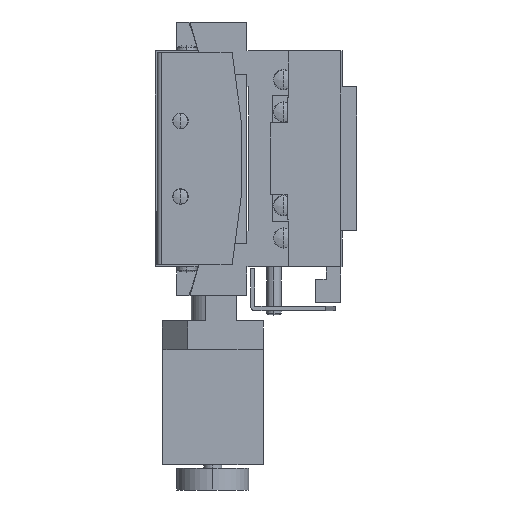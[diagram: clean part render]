
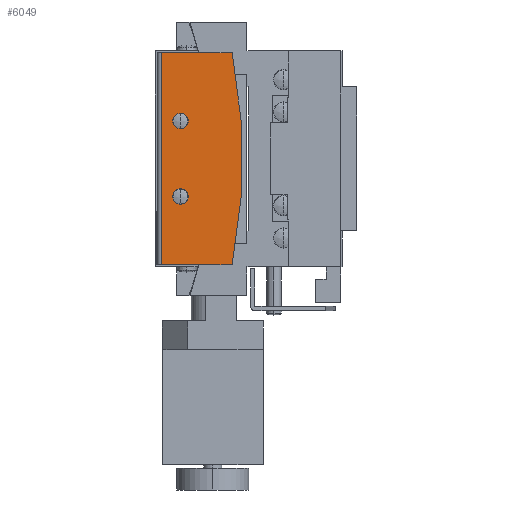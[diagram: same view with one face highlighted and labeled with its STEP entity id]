
A CAD part, left-side view. The second image highlights one B-rep face of the part: STEP entity #6049.
In plain terms, the highlighted planar face has unit normal (-1, 0, 0).
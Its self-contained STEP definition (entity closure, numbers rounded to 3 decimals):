
#139 = VECTOR ( 'NONE', #13687, 1000. ) ;
#878 = DIRECTION ( 'NONE',  ( 0., -1., 0. ) ) ;
#882 = CARTESIAN_POINT ( 'NONE',  ( -42.2, -10.5, 35. ) ) ;
#902 = CARTESIAN_POINT ( 'NONE',  ( -42.2, -29.5, 17.7 ) ) ;
#975 = DIRECTION ( 'NONE',  ( 0., -1., 0. ) ) ;
#1068 = CARTESIAN_POINT ( 'NONE',  ( -42.2, 12.65, 35. ) ) ;
#1344 = CIRCLE ( 'NONE', #1983, 2.15 ) ;
#1662 = CARTESIAN_POINT ( 'NONE',  ( -42.2, -10.5, 35. ) ) ;
#1810 = DIRECTION ( 'NONE',  ( 0., -1., 0. ) ) ;
#1983 = AXIS2_PLACEMENT_3D ( 'NONE', #882, #9942, #975 ) ;
#2051 = DIRECTION ( 'NONE',  ( 1., 0., 0. ) ) ;
#2101 = FACE_OUTER_BOUND ( 'NONE', #4319, .T. ) ;
#2125 = CIRCLE ( 'NONE', #4217, 150. ) ;
#2135 = ORIENTED_EDGE ( 'NONE', *, *, #11800, .T. ) ;
#2255 = VERTEX_POINT ( 'NONE', #5847 ) ;
#2368 = ORIENTED_EDGE ( 'NONE', *, *, #6574, .F. ) ;
#2982 = VERTEX_POINT ( 'NONE', #12586 ) ;
#3527 = CARTESIAN_POINT ( 'NONE',  ( -42.2, 10.5, 35. ) ) ;
#3868 = VERTEX_POINT ( 'NONE', #12708 ) ;
#4003 = CARTESIAN_POINT ( 'NONE',  ( -42.2, 10.5, 35. ) ) ;
#4048 = ORIENTED_EDGE ( 'NONE', *, *, #12404, .F. ) ;
#4217 = AXIS2_PLACEMENT_3D ( 'NONE', #5276, #13248, #6412 ) ;
#4234 = EDGE_CURVE ( 'NONE', #5598, #2982, #10688, .T. ) ;
#4319 = EDGE_LOOP ( 'NONE', ( #9491, #2135, #9579, #6931 ) ) ;
#5002 = EDGE_CURVE ( 'NONE', #12826, #3868, #2125, .T. ) ;
#5150 = DIRECTION ( 'NONE',  ( 0., -1., 0. ) ) ;
#5276 = CARTESIAN_POINT ( 'NONE',  ( -42.2, 0., 167.7 ) ) ;
#5598 = VERTEX_POINT ( 'NONE', #1068 ) ;
#5651 = FACE_BOUND ( 'NONE', #9182, .T. ) ;
#5783 = EDGE_CURVE ( 'NONE', #12539, #12826, #14261, .T. ) ;
#5809 = CARTESIAN_POINT ( 'NONE',  ( -42.2, -12.65, 35. ) ) ;
#5811 = EDGE_CURVE ( 'NONE', #13154, #3868, #11571, .T. ) ;
#5841 = LINE ( 'NONE', #8441, #12989 ) ;
#5847 = CARTESIAN_POINT ( 'NONE',  ( -42.2, -8.35, 35. ) ) ;
#5892 = CARTESIAN_POINT ( 'NONE',  ( -42.2, 29.5, 17.7 ) ) ;
#6049 = ADVANCED_FACE ( 'NONE', ( #9383, #5651, #2101 ), #10822, .F. ) ;
#6233 = EDGE_LOOP ( 'NONE', ( #8995, #2368 ) ) ;
#6412 = DIRECTION ( 'NONE',  ( 0., 1., 0. ) ) ;
#6574 = EDGE_CURVE ( 'NONE', #2255, #8636, #1344, .T. ) ;
#6931 = ORIENTED_EDGE ( 'NONE', *, *, #5002, .T. ) ;
#7203 = ORIENTED_EDGE ( 'NONE', *, *, #4234, .F. ) ;
#7348 = AXIS2_PLACEMENT_3D ( 'NONE', #4003, #8588, #1810 ) ;
#7876 = EDGE_CURVE ( 'NONE', #8636, #2255, #13247, .T. ) ;
#8054 = DIRECTION ( 'NONE',  ( 0., 0., -1. ) ) ;
#8162 = CARTESIAN_POINT ( 'NONE',  ( -42.2, -29.5, 17.7 ) ) ;
#8441 = CARTESIAN_POINT ( 'NONE',  ( -42.2, -29.5, 40.3 ) ) ;
#8588 = DIRECTION ( 'NONE',  ( -1., 0., 0. ) ) ;
#8636 = VERTEX_POINT ( 'NONE', #5809 ) ;
#8995 = ORIENTED_EDGE ( 'NONE', *, *, #7876, .F. ) ;
#9012 = CIRCLE ( 'NONE', #13285, 2.15 ) ;
#9114 = AXIS2_PLACEMENT_3D ( 'NONE', #902, #2051, #13170 ) ;
#9182 = EDGE_LOOP ( 'NONE', ( #4048, #7203 ) ) ;
#9353 = CARTESIAN_POINT ( 'NONE',  ( -42.2, -29.5, 40.3 ) ) ;
#9383 = FACE_BOUND ( 'NONE', #6233, .T. ) ;
#9491 = ORIENTED_EDGE ( 'NONE', *, *, #5811, .F. ) ;
#9579 = ORIENTED_EDGE ( 'NONE', *, *, #5783, .T. ) ;
#9942 = DIRECTION ( 'NONE',  ( -1., 0., 0. ) ) ;
#10688 = CIRCLE ( 'NONE', #7348, 2.15 ) ;
#10822 = PLANE ( 'NONE',  #9114 ) ;
#10891 = AXIS2_PLACEMENT_3D ( 'NONE', #1662, #11980, #5150 ) ;
#11203 = VECTOR ( 'NONE', #8054, 1000. ) ;
#11571 = LINE ( 'NONE', #8162, #11203 ) ;
#11700 = CARTESIAN_POINT ( 'NONE',  ( -42.2, 29.5, 40.3 ) ) ;
#11800 = EDGE_CURVE ( 'NONE', #13154, #12539, #5841, .T. ) ;
#11980 = DIRECTION ( 'NONE',  ( -1., 0., 0. ) ) ;
#12404 = EDGE_CURVE ( 'NONE', #2982, #5598, #9012, .T. ) ;
#12539 = VERTEX_POINT ( 'NONE', #11700 ) ;
#12586 = CARTESIAN_POINT ( 'NONE',  ( -42.2, 8.35, 35. ) ) ;
#12708 = CARTESIAN_POINT ( 'NONE',  ( -42.2, -29.5, 20.629 ) ) ;
#12826 = VERTEX_POINT ( 'NONE', #14351 ) ;
#12989 = VECTOR ( 'NONE', #14094, 1000. ) ;
#13154 = VERTEX_POINT ( 'NONE', #9353 ) ;
#13170 = DIRECTION ( 'NONE',  ( 0., 1., 0. ) ) ;
#13247 = CIRCLE ( 'NONE', #10891, 2.15 ) ;
#13248 = DIRECTION ( 'NONE',  ( -1., 0., 0. ) ) ;
#13285 = AXIS2_PLACEMENT_3D ( 'NONE', #3527, #13465, #878 ) ;
#13465 = DIRECTION ( 'NONE',  ( -1., 0., 0. ) ) ;
#13687 = DIRECTION ( 'NONE',  ( 0., 0., -1. ) ) ;
#14094 = DIRECTION ( 'NONE',  ( 0., 1., 0. ) ) ;
#14261 = LINE ( 'NONE', #5892, #139 ) ;
#14351 = CARTESIAN_POINT ( 'NONE',  ( -42.2, 29.5, 20.629 ) ) ;
